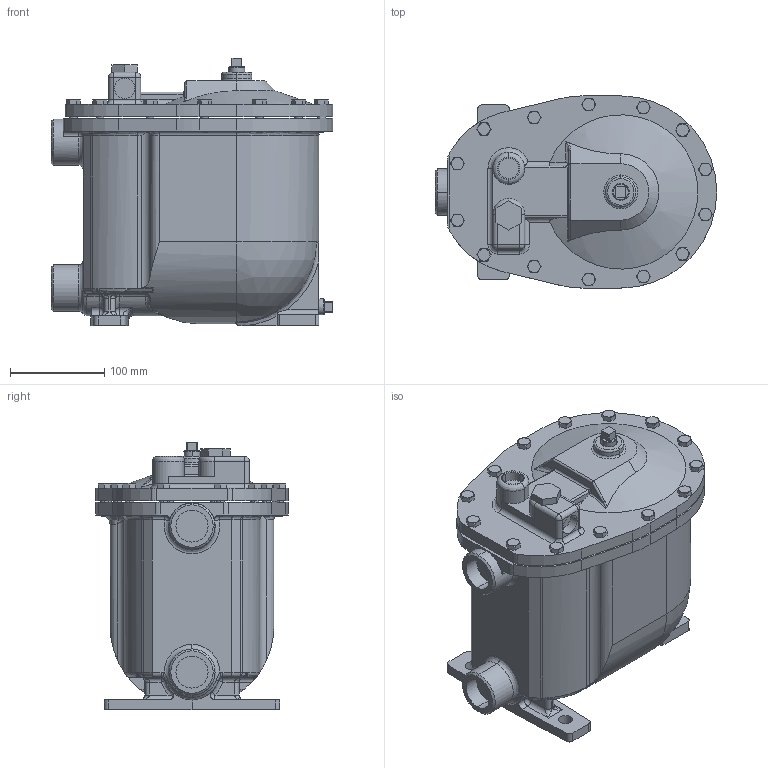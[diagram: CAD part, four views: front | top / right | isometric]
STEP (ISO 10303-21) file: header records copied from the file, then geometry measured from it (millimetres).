
FILE_DESCRIPTION( (''), '2;1');
FILE_NAME ('PC0243.11164.TFA-2000 (PF-2000) 3D_5424.stp','2023-12-04T11:57:35',(''),(''),'spGate 19.8.4 (****-****-****-****)','','');
FILE_SCHEMA (('AUTOMOTIVE_DESIGN'));
Length unit declared in the file: millimetre
Products named in the file (6): Assembly; TFA-2000 body 3D; TFA-2000 cover 3D; ストレーナキャップ; 四角頭付プラグ　R3@8; CP_''_JIS B 1180 呼び径六角ボルト''_17166
Assembly tree (19 placements, depth 2):
  Assembly
    TFA-2000 body 3D
    TFA-2000 cover 3D
    ストレーナキャップ
    四角頭付プラグ　R3@8  x2
    CP_''_JIS B 1180 呼び径六角ボルト''_17166  x14
Bounding box: 299 x 204 x 284 mm (x, y, z)
Volume: 8682599.3 mm3; surface area: 414130.6 mm2
Topology: 19 solids, 19 shells, 755 faces, 1740 edges, 1052 vertices
Faces by surface type: plane 262, cylinder 243, bspline 234, sphere 16
Entity records: 24264 total; most frequent: CARTESIAN_POINT 6297, ORIENTED_EDGE 2054, DIRECTION 1915, COLOUR_RGB 1458, PRESENTATION_STYLE_ASSIGNMENT 1458, STYLED_ITEM 1458, EDGE_CURVE 1027, DRAUGHTING_PRE_DEFINED_CURVE_FONT 1027
